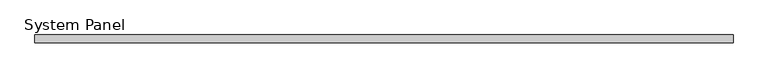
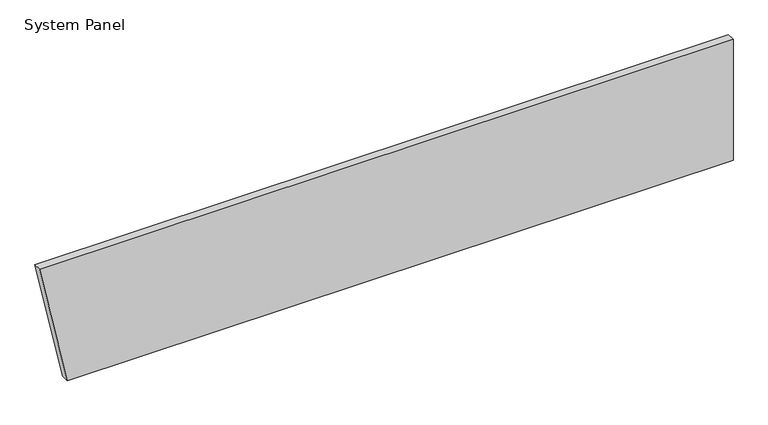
"""IFC4 building model written with IfcOpenShell, lengths in millimetres: plate geometry, System Panel : Equitilt_FlameGuard_75mm_Plain_Surfmist."""

from ifc_helpers import new_model, si_unit, frame, origin, place, context, project, spatial, polyline, outline, extrude, source, transform, mapped, element, save


def system_panel_f51c096d(model_context):
    return source(origin(), model_context, "Body", "SweptSolid", [
        extrude(outline(polyline([(0.0, -2995.0), (0.0, 3255.8716619), (1200.0, 3255.8716619), (1200.0, -3255.8716619), (0.0, -2995.0)])), frame((0.0, -75.0, 0.0), z_axis=(0.0, 1.0, 0.0), x_axis=(0.0, 0.0, 1.0)), (0.0, 0.0, 1.0), 75.0),
    ])


if __name__ == "__main__":
    model = new_model("IFC4")
    model_context = context("Model", 3, world=origin())
    ifc_project = project(units=[si_unit("LENGTHUNIT", "METRE", prefix="MILLI")], contexts=[model_context])
    site = spatial("IfcSite", under=ifc_project)
    building = spatial("IfcBuilding", under=site)
    placement = place(None, origin())
    system_panel_shape = system_panel_f51c096d(model_context)
    element("IfcPlate", 1, ObjectType="System Panel : Equitilt_FlameGuard_75mm_Plain_Surfmist", at=placement, inside=building, context=model_context, shape_type="MappedRepresentation", body=[
        mapped(system_panel_shape, transform((0.0, 0.0, 0.0), x_axis=(1.0, 0.0, 0.0), y_axis=(0.0, 1.0, 0.0), z_axis=(0.0, 0.0, 1.0))),
    ])
    save(model, "model.ifc")
